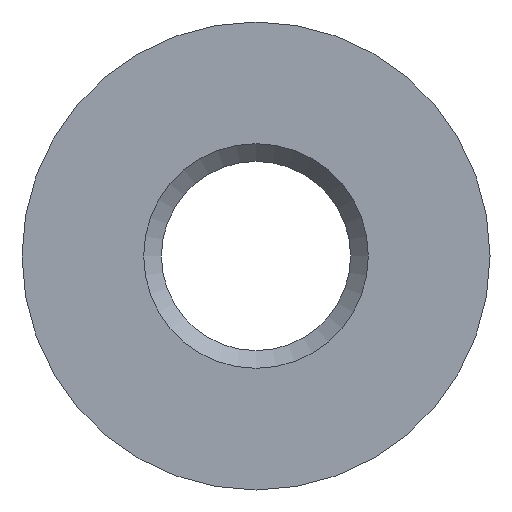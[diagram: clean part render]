
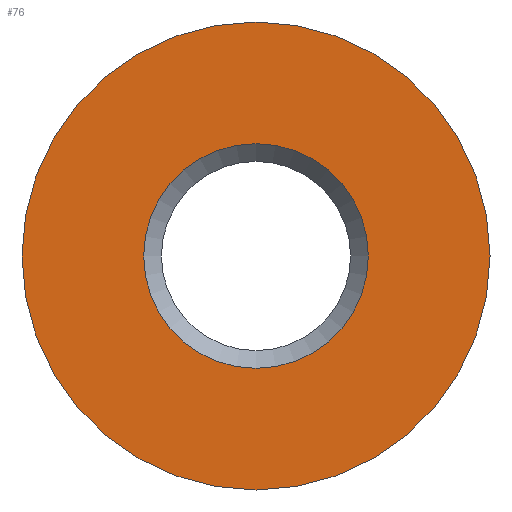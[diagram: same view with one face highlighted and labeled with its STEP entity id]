
A CAD part, front view. The second image highlights one B-rep face of the part: STEP entity #76.
In plain terms, the highlighted planar face has unit normal (0, -1, 0).
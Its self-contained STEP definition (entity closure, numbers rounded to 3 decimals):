
#76 = ADVANCED_FACE( '', ( #97, #98 ), #99, .F. );
#97 = FACE_BOUND( '', #142, .T. );
#98 = FACE_OUTER_BOUND( '', #143, .T. );
#99 = PLANE( '', #144 );
#142 = EDGE_LOOP( '', ( #193 ) );
#143 = EDGE_LOOP( '', ( #194 ) );
#144 = AXIS2_PLACEMENT_3D( '', #195, #196, #197 );
#193 = ORIENTED_EDGE( '', *, *, #319, .F. );
#194 = ORIENTED_EDGE( '', *, *, #320, .T. );
#195 = CARTESIAN_POINT( '', ( 12.5, 0., 0. ) );
#196 = DIRECTION( '', ( 0., 1., 0. ) );
#197 = DIRECTION( '', ( 0., 0., 1. ) );
#319 = EDGE_CURVE( '', #360, #360, #361, .T. );
#320 = EDGE_CURVE( '', #362, #362, #363, .T. );
#360 = VERTEX_POINT( '', #435 );
#361 = CIRCLE( '', #436, 6. );
#362 = VERTEX_POINT( '', #437 );
#363 = CIRCLE( '', #438, 12.5 );
#435 = CARTESIAN_POINT( '', ( 0., 0., -6. ) );
#436 = AXIS2_PLACEMENT_3D( '', #569, #570, #571 );
#437 = CARTESIAN_POINT( '', ( 0., 0., -12.5 ) );
#438 = AXIS2_PLACEMENT_3D( '', #572, #573, #574 );
#569 = CARTESIAN_POINT( '', ( 0., 0., 0. ) );
#570 = DIRECTION( '', ( 0., -1., 0. ) );
#571 = DIRECTION( '', ( 0., 0., -1. ) );
#572 = CARTESIAN_POINT( '', ( 0., 0., 0. ) );
#573 = DIRECTION( '', ( 0., -1., 0. ) );
#574 = DIRECTION( '', ( 0., 0., -1. ) );
